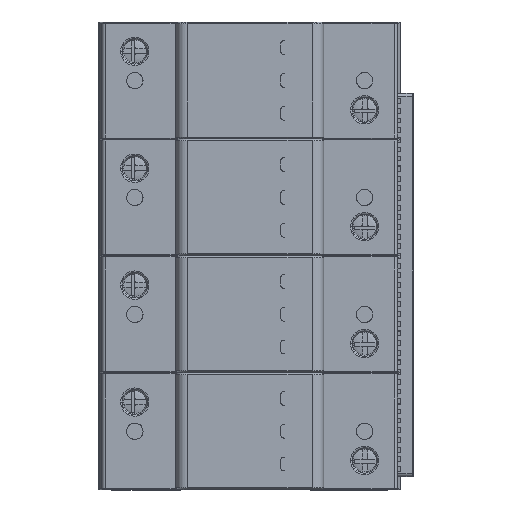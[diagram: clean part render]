
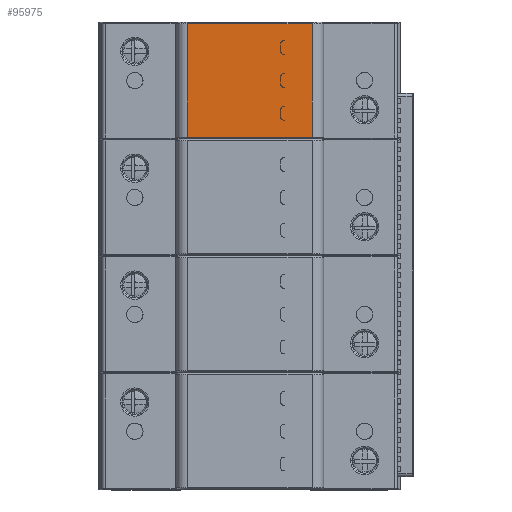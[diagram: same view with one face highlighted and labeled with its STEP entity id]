
A CAD part, top view. The second image highlights one B-rep face of the part: STEP entity #95975.
In plain terms, the highlighted planar face has unit normal (0, 0, 1).
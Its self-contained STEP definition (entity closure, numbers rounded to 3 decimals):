
#7278=DIRECTION('',(0.,-1.,0.));
#7279=VECTOR('',#7278,34.5);
#7280=CARTESIAN_POINT('',(26.,141.85,31.2));
#7281=LINE('',#7280,#7279);
#7286=CARTESIAN_POINT('',(55.45,113.5,31.2));
#7287=DIRECTION('',(0.,0.,-1.));
#7288=DIRECTION('',(0.,-1.,0.));
#7289=AXIS2_PLACEMENT_3D('',#7286,#7287,#7288);
#7291=DIRECTION('',(0.,1.,0.));
#7292=VECTOR('',#7291,2.2);
#7293=CARTESIAN_POINT('',(54.45,113.5,31.2));
#7294=LINE('',#7293,#7292);
#7295=CARTESIAN_POINT('',(55.45,115.7,31.2));
#7296=DIRECTION('',(0.,0.,-1.));
#7297=DIRECTION('',(-1.,0.,0.));
#7298=AXIS2_PLACEMENT_3D('',#7295,#7296,#7297);
#7300=CARTESIAN_POINT('',(55.4,115.7,31.2));
#7301=DIRECTION('',(0.,0.,1.));
#7302=DIRECTION('',(0.,1.,0.));
#7303=AXIS2_PLACEMENT_3D('',#7300,#7301,#7302);
#7305=CARTESIAN_POINT('',(55.4,113.5,31.2));
#7306=DIRECTION('',(0.,0.,1.));
#7307=DIRECTION('',(-1.,0.,0.));
#7308=AXIS2_PLACEMENT_3D('',#7305,#7306,#7307);
#7310=CARTESIAN_POINT('',(55.45,123.5,31.2));
#7311=DIRECTION('',(0.,0.,-1.));
#7312=DIRECTION('',(0.,-1.,0.));
#7313=AXIS2_PLACEMENT_3D('',#7310,#7311,#7312);
#7315=DIRECTION('',(0.,1.,0.));
#7316=VECTOR('',#7315,2.2);
#7317=CARTESIAN_POINT('',(54.45,123.5,31.2));
#7318=LINE('',#7317,#7316);
#7319=CARTESIAN_POINT('',(55.45,125.7,31.2));
#7320=DIRECTION('',(0.,0.,-1.));
#7321=DIRECTION('',(-1.,0.,0.));
#7322=AXIS2_PLACEMENT_3D('',#7319,#7320,#7321);
#7324=CARTESIAN_POINT('',(55.4,125.7,31.2));
#7325=DIRECTION('',(0.,0.,1.));
#7326=DIRECTION('',(0.,1.,0.));
#7327=AXIS2_PLACEMENT_3D('',#7324,#7325,#7326);
#7329=CARTESIAN_POINT('',(55.4,123.5,31.2));
#7330=DIRECTION('',(0.,0.,1.));
#7331=DIRECTION('',(-1.,0.,0.));
#7332=AXIS2_PLACEMENT_3D('',#7329,#7330,#7331);
#7334=CARTESIAN_POINT('',(55.45,133.5,31.2));
#7335=DIRECTION('',(0.,0.,-1.));
#7336=DIRECTION('',(0.,-1.,0.));
#7337=AXIS2_PLACEMENT_3D('',#7334,#7335,#7336);
#7339=DIRECTION('',(0.,1.,0.));
#7340=VECTOR('',#7339,2.2);
#7341=CARTESIAN_POINT('',(54.45,133.5,31.2));
#7342=LINE('',#7341,#7340);
#7343=CARTESIAN_POINT('',(55.45,135.7,31.2));
#7344=DIRECTION('',(0.,0.,-1.));
#7345=DIRECTION('',(-1.,0.,0.));
#7346=AXIS2_PLACEMENT_3D('',#7343,#7344,#7345);
#7348=CARTESIAN_POINT('',(55.4,135.7,31.2));
#7349=DIRECTION('',(0.,0.,1.));
#7350=DIRECTION('',(0.,1.,0.));
#7351=AXIS2_PLACEMENT_3D('',#7348,#7349,#7350);
#7353=CARTESIAN_POINT('',(55.4,133.5,31.2));
#7354=DIRECTION('',(0.,0.,1.));
#7355=DIRECTION('',(-1.,0.,0.));
#7356=AXIS2_PLACEMENT_3D('',#7353,#7354,#7355);
#7362=DIRECTION('',(0.,1.,0.));
#7363=VECTOR('',#7362,34.5);
#7364=CARTESIAN_POINT('',(64.,107.35,31.2));
#7365=LINE('',#7364,#7363);
#50005=DIRECTION('',(1.,0.,0.));
#50006=VECTOR('',#50005,38.);
#50007=CARTESIAN_POINT('',(26.,107.35,31.2));
#50008=LINE('',#50007,#50006);
#54679=DIRECTION('',(-1.,0.,0.));
#54680=VECTOR('',#54679,38.);
#54681=CARTESIAN_POINT('',(64.,141.85,31.2));
#54682=LINE('',#54681,#54680);
#56351=DIRECTION('',(1.,0.,0.));
#56352=VECTOR('',#56351,0.05);
#56353=CARTESIAN_POINT('',(55.4,116.7,31.2));
#56354=LINE('',#56353,#56352);
#56372=DIRECTION('',(0.,1.,0.));
#56373=VECTOR('',#56372,2.2);
#56374=CARTESIAN_POINT('',(54.4,113.5,31.2));
#56375=LINE('',#56374,#56373);
#56393=DIRECTION('',(-1.,0.,0.));
#56394=VECTOR('',#56393,0.05);
#56395=CARTESIAN_POINT('',(55.45,112.5,31.2));
#56396=LINE('',#56395,#56394);
#56597=DIRECTION('',(1.,0.,0.));
#56598=VECTOR('',#56597,0.05);
#56599=CARTESIAN_POINT('',(55.4,126.7,31.2));
#56600=LINE('',#56599,#56598);
#56618=DIRECTION('',(0.,1.,0.));
#56619=VECTOR('',#56618,2.2);
#56620=CARTESIAN_POINT('',(54.4,123.5,31.2));
#56621=LINE('',#56620,#56619);
#56639=DIRECTION('',(-1.,0.,0.));
#56640=VECTOR('',#56639,0.05);
#56641=CARTESIAN_POINT('',(55.45,122.5,31.2));
#56642=LINE('',#56641,#56640);
#56903=DIRECTION('',(1.,0.,0.));
#56904=VECTOR('',#56903,0.05);
#56905=CARTESIAN_POINT('',(55.4,136.7,31.2));
#56906=LINE('',#56905,#56904);
#56924=DIRECTION('',(0.,1.,0.));
#56925=VECTOR('',#56924,2.2);
#56926=CARTESIAN_POINT('',(54.4,133.5,31.2));
#56927=LINE('',#56926,#56925);
#56945=DIRECTION('',(-1.,0.,0.));
#56946=VECTOR('',#56945,0.05);
#56947=CARTESIAN_POINT('',(55.45,132.5,31.2));
#56948=LINE('',#56947,#56946);
#84778=CARTESIAN_POINT('',(64.,141.85,31.2));
#84779=VERTEX_POINT('',#84778);
#84780=CARTESIAN_POINT('',(26.,141.85,31.2));
#84781=VERTEX_POINT('',#84780);
#84806=CARTESIAN_POINT('',(26.,107.35,31.2));
#84807=VERTEX_POINT('',#84806);
#84808=CARTESIAN_POINT('',(64.,107.35,31.2));
#84809=VERTEX_POINT('',#84808);
#84810=CARTESIAN_POINT('',(55.4,126.7,31.2));
#84811=CARTESIAN_POINT('',(54.4,125.7,31.2));
#84812=VERTEX_POINT('',#84810);
#84813=VERTEX_POINT('',#84811);
#84814=CARTESIAN_POINT('',(54.4,123.5,31.2));
#84815=VERTEX_POINT('',#84814);
#84816=CARTESIAN_POINT('',(55.4,122.5,31.2));
#84817=VERTEX_POINT('',#84816);
#84818=CARTESIAN_POINT('',(55.4,136.7,31.2));
#84819=CARTESIAN_POINT('',(54.4,135.7,31.2));
#84820=VERTEX_POINT('',#84818);
#84821=VERTEX_POINT('',#84819);
#84822=CARTESIAN_POINT('',(54.4,133.5,31.2));
#84823=VERTEX_POINT('',#84822);
#84824=CARTESIAN_POINT('',(55.4,132.5,31.2));
#84825=VERTEX_POINT('',#84824);
#84826=CARTESIAN_POINT('',(55.4,116.7,31.2));
#84827=CARTESIAN_POINT('',(54.4,115.7,31.2));
#84828=VERTEX_POINT('',#84826);
#84829=VERTEX_POINT('',#84827);
#84830=CARTESIAN_POINT('',(54.4,113.5,31.2));
#84831=VERTEX_POINT('',#84830);
#84832=CARTESIAN_POINT('',(55.4,112.5,31.2));
#84833=VERTEX_POINT('',#84832);
#86641=CARTESIAN_POINT('',(54.45,115.7,31.2));
#86642=VERTEX_POINT('',#86641);
#86643=CARTESIAN_POINT('',(54.45,113.5,31.2));
#86644=VERTEX_POINT('',#86643);
#86661=CARTESIAN_POINT('',(55.45,112.5,31.2));
#86662=VERTEX_POINT('',#86661);
#86663=CARTESIAN_POINT('',(55.45,116.7,31.2));
#86664=VERTEX_POINT('',#86663);
#86673=CARTESIAN_POINT('',(54.45,125.7,31.2));
#86674=VERTEX_POINT('',#86673);
#86675=CARTESIAN_POINT('',(54.45,123.5,31.2));
#86676=VERTEX_POINT('',#86675);
#86678=CARTESIAN_POINT('',(55.45,126.7,31.2));
#86680=VERTEX_POINT('',#86678);
#86692=CARTESIAN_POINT('',(55.45,122.5,31.2));
#86694=VERTEX_POINT('',#86692);
#86705=CARTESIAN_POINT('',(54.45,135.7,31.2));
#86706=VERTEX_POINT('',#86705);
#86707=CARTESIAN_POINT('',(54.45,133.5,31.2));
#86708=VERTEX_POINT('',#86707);
#86725=CARTESIAN_POINT('',(55.45,132.5,31.2));
#86726=VERTEX_POINT('',#86725);
#86727=CARTESIAN_POINT('',(55.45,136.7,31.2));
#86728=VERTEX_POINT('',#86727);
#95907=CARTESIAN_POINT('',(45.,124.6,31.2));
#95908=DIRECTION('',(0.,0.,1.));
#95909=DIRECTION('',(1.,0.,0.));
#95910=AXIS2_PLACEMENT_3D('',#95907,#95908,#95909);
#95911=PLANE('',#95910);
#95913=ORIENTED_EDGE('',*,*,#95912,.F.);
#95915=ORIENTED_EDGE('',*,*,#95914,.F.);
#95916=ORIENTED_EDGE('',*,*,#95897,.F.);
#95918=ORIENTED_EDGE('',*,*,#95917,.F.);
#95919=EDGE_LOOP('',(#95913,#95915,#95916,#95918));
#95920=FACE_OUTER_BOUND('',#95919,.F.);
#95922=ORIENTED_EDGE('',*,*,#95921,.F.);
#95924=ORIENTED_EDGE('',*,*,#95923,.T.);
#95926=ORIENTED_EDGE('',*,*,#95925,.T.);
#95928=ORIENTED_EDGE('',*,*,#95927,.T.);
#95930=ORIENTED_EDGE('',*,*,#95929,.F.);
#95932=ORIENTED_EDGE('',*,*,#95931,.T.);
#95934=ORIENTED_EDGE('',*,*,#95933,.F.);
#95936=ORIENTED_EDGE('',*,*,#95935,.T.);
#95937=EDGE_LOOP('',(#95922,#95924,#95926,#95928,#95930,#95932,#95934,#95936));
#95938=FACE_BOUND('',#95937,.F.);
#95940=ORIENTED_EDGE('',*,*,#95939,.F.);
#95942=ORIENTED_EDGE('',*,*,#95941,.T.);
#95944=ORIENTED_EDGE('',*,*,#95943,.T.);
#95946=ORIENTED_EDGE('',*,*,#95945,.T.);
#95948=ORIENTED_EDGE('',*,*,#95947,.F.);
#95950=ORIENTED_EDGE('',*,*,#95949,.T.);
#95952=ORIENTED_EDGE('',*,*,#95951,.F.);
#95954=ORIENTED_EDGE('',*,*,#95953,.T.);
#95955=EDGE_LOOP('',(#95940,#95942,#95944,#95946,#95948,#95950,#95952,#95954));
#95956=FACE_BOUND('',#95955,.F.);
#95958=ORIENTED_EDGE('',*,*,#95957,.F.);
#95960=ORIENTED_EDGE('',*,*,#95959,.T.);
#95962=ORIENTED_EDGE('',*,*,#95961,.T.);
#95964=ORIENTED_EDGE('',*,*,#95963,.T.);
#95966=ORIENTED_EDGE('',*,*,#95965,.F.);
#95968=ORIENTED_EDGE('',*,*,#95967,.T.);
#95970=ORIENTED_EDGE('',*,*,#95969,.F.);
#95972=ORIENTED_EDGE('',*,*,#95971,.T.);
#95973=EDGE_LOOP('',(#95958,#95960,#95962,#95964,#95966,#95968,#95970,#95972));
#95974=FACE_BOUND('',#95973,.F.);
#95975=ADVANCED_FACE('',(#95920,#95938,#95956,#95974),#95911,.T.);
#7290=CIRCLE('',#7289,1.);
#7299=CIRCLE('',#7298,1.);
#7304=CIRCLE('',#7303,1.);
#7309=CIRCLE('',#7308,1.);
#7314=CIRCLE('',#7313,1.);
#7323=CIRCLE('',#7322,1.);
#7328=CIRCLE('',#7327,1.);
#7333=CIRCLE('',#7332,1.);
#7338=CIRCLE('',#7337,1.);
#7347=CIRCLE('',#7346,1.);
#7352=CIRCLE('',#7351,1.);
#7357=CIRCLE('',#7356,1.);
#95897=EDGE_CURVE('',#84781,#84807,#7281,.T.);
#95912=EDGE_CURVE('',#84809,#84779,#7365,.T.);
#95914=EDGE_CURVE('',#84807,#84809,#50008,.T.);
#95917=EDGE_CURVE('',#84779,#84781,#54682,.T.);
#95921=EDGE_CURVE('',#86662,#84833,#56396,.T.);
#95923=EDGE_CURVE('',#86662,#86644,#7290,.T.);
#95925=EDGE_CURVE('',#86644,#86642,#7294,.T.);
#95927=EDGE_CURVE('',#86642,#86664,#7299,.T.);
#95929=EDGE_CURVE('',#84828,#86664,#56354,.T.);
#95931=EDGE_CURVE('',#84828,#84829,#7304,.T.);
#95933=EDGE_CURVE('',#84831,#84829,#56375,.T.);
#95935=EDGE_CURVE('',#84831,#84833,#7309,.T.);
#95939=EDGE_CURVE('',#86694,#84817,#56642,.T.);
#95941=EDGE_CURVE('',#86694,#86676,#7314,.T.);
#95943=EDGE_CURVE('',#86676,#86674,#7318,.T.);
#95945=EDGE_CURVE('',#86674,#86680,#7323,.T.);
#95947=EDGE_CURVE('',#84812,#86680,#56600,.T.);
#95949=EDGE_CURVE('',#84812,#84813,#7328,.T.);
#95951=EDGE_CURVE('',#84815,#84813,#56621,.T.);
#95953=EDGE_CURVE('',#84815,#84817,#7333,.T.);
#95957=EDGE_CURVE('',#86726,#84825,#56948,.T.);
#95959=EDGE_CURVE('',#86726,#86708,#7338,.T.);
#95961=EDGE_CURVE('',#86708,#86706,#7342,.T.);
#95963=EDGE_CURVE('',#86706,#86728,#7347,.T.);
#95965=EDGE_CURVE('',#84820,#86728,#56906,.T.);
#95967=EDGE_CURVE('',#84820,#84821,#7352,.T.);
#95969=EDGE_CURVE('',#84823,#84821,#56927,.T.);
#95971=EDGE_CURVE('',#84823,#84825,#7357,.T.);
